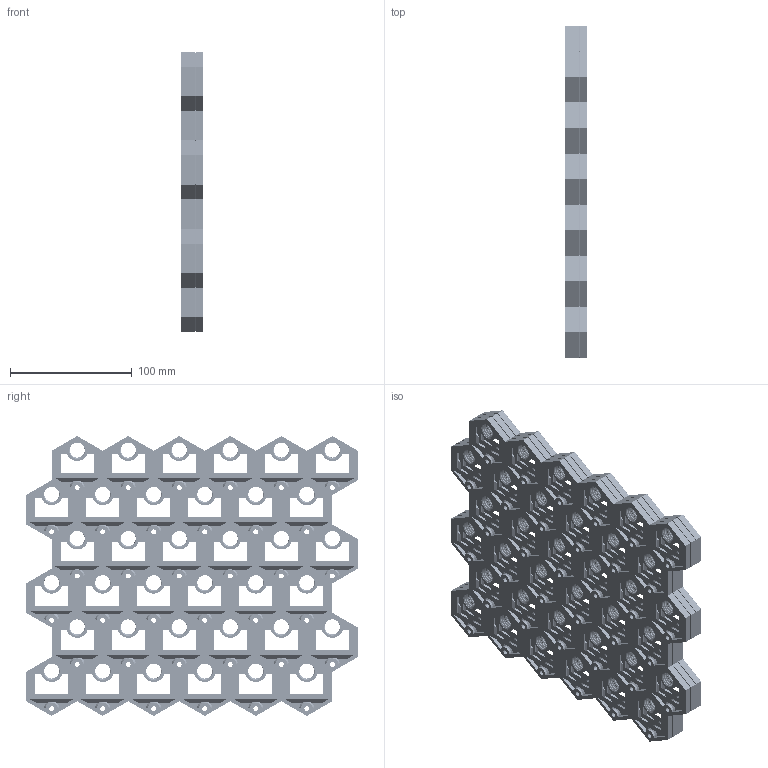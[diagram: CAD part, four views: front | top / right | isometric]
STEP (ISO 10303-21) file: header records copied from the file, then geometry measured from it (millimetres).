
FILE_DESCRIPTION(/* description */ ('','CAx-IF Rec.Pracs.---Representation and Presentation of Product Manufacturing Information (PMI)---4.0---2014-10-13'),/* implementation_level */ '2;1');
FILE_NAME(/* name */ 'GOEWS 6x6 Tile Stack with 0.2 Gaps.step',/* time_stamp */ '2024-11-29T15:31:02-05:00',/* author */ (''),/* organization */ (''),/* preprocessor_version */ 'ST-DEVELOPER v20',/* originating_system */ 'Autodesk Translation Framework v13.20.0.188',/* authorisation */ '');
FILE_SCHEMA (('AP242_MANAGED_MODEL_BASED_3D_ENGINEERING_MIM_LF { 1 0 10303 442 1 1 4 }'));
Products named in the file (1): GOEWS Parametric Tile Stack with Gaps
Bounding box: 18.4 x 273 x 230.36 mm (x, y, z)
Volume: 494943.3 mm3; surface area: 367457.7 mm2
Topology: 3 solids, 3 shells, 5649 faces, 15579 edges, 10044 vertices
Faces by surface type: plane 3813, cylinder 1296, cone 324, bspline 216
Full cylindrical faces by diameter (mm): 4 x108, 8 x108, 12.322 x216, 14.55 x216
Entity records: 303872 total; most frequent: CARTESIAN_POINT 164113, ORIENTED_EDGE 31158, DIRECTION 25367, EDGE_CURVE 15579, LINE 11043, VECTOR 11043, VERTEX_POINT 10044, AXIS2_PLACEMENT_3D 7162
